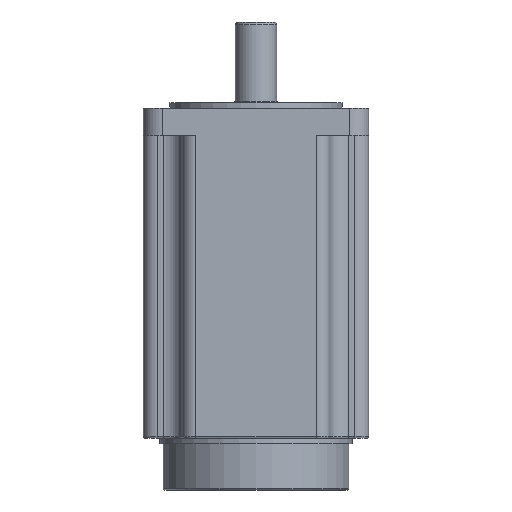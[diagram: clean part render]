
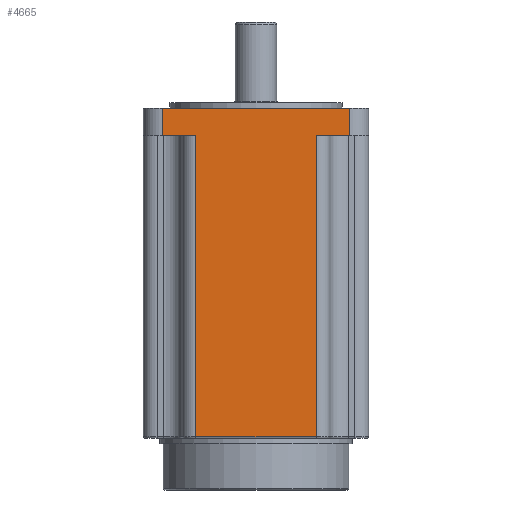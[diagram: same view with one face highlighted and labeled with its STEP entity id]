
A CAD part, front view. The second image highlights one B-rep face of the part: STEP entity #4665.
In plain terms, the highlighted planar face has unit normal (0, -1, 0).
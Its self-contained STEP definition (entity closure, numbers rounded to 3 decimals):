
#59 = CARTESIAN_POINT ( 'NONE',  ( -54.5, -65.5, 16. ) ) ;
#200 = ORIENTED_EDGE ( 'NONE', *, *, #934, .F. ) ;
#296 = VECTOR ( 'NONE', #2577, 1000. ) ;
#385 = DIRECTION ( 'NONE',  ( 0., 0., 1. ) ) ;
#498 = VERTEX_POINT ( 'NONE', #3558 ) ;
#783 = ORIENTED_EDGE ( 'NONE', *, *, #1657, .F. ) ;
#829 = LINE ( 'NONE', #59, #2612 ) ;
#893 = CARTESIAN_POINT ( 'NONE',  ( -54.5, -65.5, -175. ) ) ;
#918 = EDGE_CURVE ( 'NONE', #498, #4105, #1845, .T. ) ;
#934 = EDGE_CURVE ( 'NONE', #1281, #4791, #829, .T. ) ;
#939 = CARTESIAN_POINT ( 'NONE',  ( -54.5, -65.5, 16. ) ) ;
#940 = LINE ( 'NONE', #3400, #4694 ) ;
#1147 = EDGE_CURVE ( 'NONE', #4026, #4291, #2552, .T. ) ;
#1281 = VERTEX_POINT ( 'NONE', #939 ) ;
#1300 = VECTOR ( 'NONE', #3942, 1000. ) ;
#1367 = CARTESIAN_POINT ( 'NONE',  ( 54.5, -65.5, 0. ) ) ;
#1425 = CARTESIAN_POINT ( 'NONE',  ( -35., -65.5, -175. ) ) ;
#1541 = VECTOR ( 'NONE', #2406, 1000. ) ;
#1553 = VECTOR ( 'NONE', #1645, 1000. ) ;
#1556 = EDGE_CURVE ( 'NONE', #2692, #4200, #2539, .T. ) ;
#1573 = DIRECTION ( 'NONE',  ( 0., 1., 0. ) ) ;
#1627 = EDGE_CURVE ( 'NONE', #4791, #4105, #4293, .T. ) ;
#1640 = ORIENTED_EDGE ( 'NONE', *, *, #918, .T. ) ;
#1645 = DIRECTION ( 'NONE',  ( 1., 0., 0. ) ) ;
#1657 = EDGE_CURVE ( 'NONE', #2692, #4291, #2287, .T. ) ;
#1726 = EDGE_CURVE ( 'NONE', #4200, #498, #940, .T. ) ;
#1737 = FACE_OUTER_BOUND ( 'NONE', #4610, .T. ) ;
#1819 = CARTESIAN_POINT ( 'NONE',  ( -35., -65.5, -176. ) ) ;
#1845 = LINE ( 'NONE', #2689, #3738 ) ;
#1869 = ORIENTED_EDGE ( 'NONE', *, *, #4050, .T. ) ;
#2244 = LINE ( 'NONE', #2432, #4013 ) ;
#2287 = LINE ( 'NONE', #1819, #296 ) ;
#2406 = DIRECTION ( 'NONE',  ( 1., 0., 0. ) ) ;
#2432 = CARTESIAN_POINT ( 'NONE',  ( -54.5, -65.5, 16. ) ) ;
#2480 = ORIENTED_EDGE ( 'NONE', *, *, #1147, .T. ) ;
#2539 = LINE ( 'NONE', #893, #1541 ) ;
#2552 = LINE ( 'NONE', #3517, #1553 ) ;
#2577 = DIRECTION ( 'NONE',  ( 0., 0., 1. ) ) ;
#2612 = VECTOR ( 'NONE', #3060, 1000. ) ;
#2689 = CARTESIAN_POINT ( 'NONE',  ( -54.5, -65.5, 0. ) ) ;
#2692 = VERTEX_POINT ( 'NONE', #1425 ) ;
#2749 = ORIENTED_EDGE ( 'NONE', *, *, #1726, .T. ) ;
#3060 = DIRECTION ( 'NONE',  ( 1., 0., 0. ) ) ;
#3400 = CARTESIAN_POINT ( 'NONE',  ( 35., -65.5, -176. ) ) ;
#3453 = DIRECTION ( 'NONE',  ( 1., 0., 0. ) ) ;
#3517 = CARTESIAN_POINT ( 'NONE',  ( -54.5, -65.5, 0. ) ) ;
#3558 = CARTESIAN_POINT ( 'NONE',  ( 35., -65.5, 0. ) ) ;
#3579 = CARTESIAN_POINT ( 'NONE',  ( 54.5, -65.5, 16. ) ) ;
#3594 = DIRECTION ( 'NONE',  ( 0., 0., -1. ) ) ;
#3738 = VECTOR ( 'NONE', #3453, 1000. ) ;
#3826 = PLANE ( 'NONE',  #4404 ) ;
#3942 = DIRECTION ( 'NONE',  ( 0., 0., -1. ) ) ;
#4013 = VECTOR ( 'NONE', #3594, 1000. ) ;
#4026 = VERTEX_POINT ( 'NONE', #4674 ) ;
#4050 = EDGE_CURVE ( 'NONE', #1281, #4026, #2244, .T. ) ;
#4059 = CARTESIAN_POINT ( 'NONE',  ( -35., -65.5, 0. ) ) ;
#4084 = ORIENTED_EDGE ( 'NONE', *, *, #1627, .F. ) ;
#4105 = VERTEX_POINT ( 'NONE', #1367 ) ;
#4171 = CARTESIAN_POINT ( 'NONE',  ( -54.5, -65.5, 16. ) ) ;
#4187 = DIRECTION ( 'NONE',  ( 0., 0., 1. ) ) ;
#4200 = VERTEX_POINT ( 'NONE', #4750 ) ;
#4291 = VERTEX_POINT ( 'NONE', #4059 ) ;
#4293 = LINE ( 'NONE', #3579, #1300 ) ;
#4304 = CARTESIAN_POINT ( 'NONE',  ( 54.5, -65.5, 16. ) ) ;
#4404 = AXIS2_PLACEMENT_3D ( 'NONE', #4171, #1573, #4187 ) ;
#4610 = EDGE_LOOP ( 'NONE', ( #783, #4828, #2749, #1640, #4084, #200, #1869, #2480 ) ) ;
#4665 = ADVANCED_FACE ( 'NONE', ( #1737 ), #3826, .F. ) ;
#4674 = CARTESIAN_POINT ( 'NONE',  ( -54.5, -65.5, 0. ) ) ;
#4694 = VECTOR ( 'NONE', #385, 1000. ) ;
#4750 = CARTESIAN_POINT ( 'NONE',  ( 35., -65.5, -175. ) ) ;
#4791 = VERTEX_POINT ( 'NONE', #4304 ) ;
#4828 = ORIENTED_EDGE ( 'NONE', *, *, #1556, .T. ) ;
